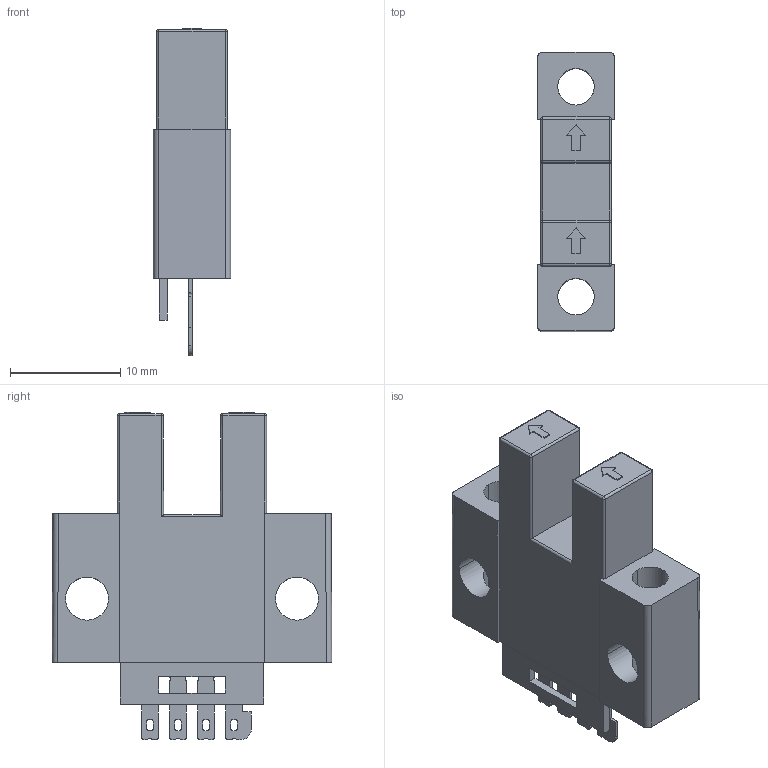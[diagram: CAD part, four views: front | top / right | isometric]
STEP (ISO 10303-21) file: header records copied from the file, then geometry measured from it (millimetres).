
FILE_DESCRIPTION((''),'2;1');
FILE_NAME('FF-U670QJ_ASM','2018-07-23T16:57:29',('Administrator'),(''),'CREO PARAMETRIC BY PTC INC, 2016390','CREO PARAMETRIC BY PTC INC, 2016390','');
FILE_SCHEMA(('CONFIG_CONTROL_DESIGN'));
Length unit declared in the file: millimetre
Products named in the file (5): FF-U670QJ; QIAJIAOGAI; 670000; WUJINQIAJIAO_ASM; FF-U670QJ_ASM
Assembly tree (4 placements, depth 3):
  FF-U670QJ_ASM
    FF-U670QJ
    WUJINQIAJIAO_ASM
      QIAJIAOGAI
      670000
Bounding box: 7 x 25.3 x 29.6 mm (x, y, z)
Volume: 1616.3 mm3; surface area: 2994.1 mm2
Topology: 6 solids, 6 shells, 266 faces, 728 edges, 466 vertices
Faces by surface type: plane 186, cylinder 72, sphere 8
Entity records: 8763 total; most frequent: CARTESIAN_POINT 1825, ORIENTED_EDGE 1440, DIRECTION 1374, EDGE_CURVE 720, VECTOR 580, LINE 580, VERTEX_POINT 466, AXIS2_PLACEMENT_3D 397
